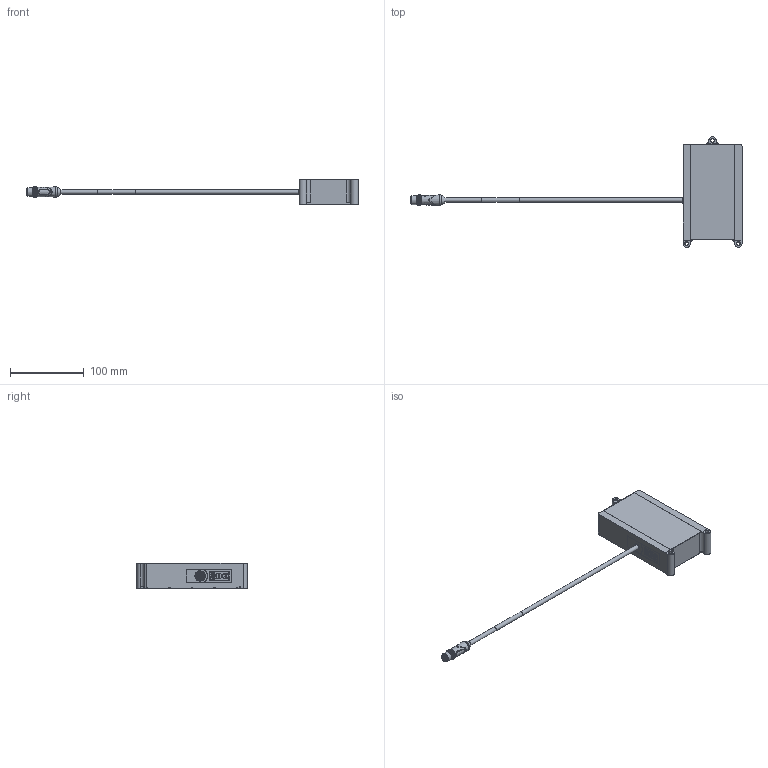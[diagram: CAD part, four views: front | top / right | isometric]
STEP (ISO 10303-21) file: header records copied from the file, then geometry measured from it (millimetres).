
FILE_DESCRIPTION (( 'STEP AP214' ), '1' );
FILE_NAME ('ILD1910.STEP', '2023-09-22T06:33:30', ( '' ), ( '' ), 'SwSTEP 2.0', 'SolidWorks 2020', '' );
FILE_SCHEMA (( 'AUTOMOTIVE_DESIGN' ));
Length unit declared in the file: millimetre
Products named in the file (1): ILD1910
Bounding box: 450.6 x 150 x 35 mm (x, y, z)
Volume: 379004.6 mm3; surface area: 49663.3 mm2
Topology: 1 solids, 9 shells, 2049 faces, 4648 edges, 2714 vertices
Faces by surface type: plane 899, cone 502, cylinder 414, bspline 186, torus 48
Full cylindrical faces by diameter (mm): 0.6 x17, 1.25 x4, 2.4 x2, 2.5 x3, 4.5 x15, 4.8 x12, 5.8 x2, 6 x1, 7.5 x2, 8 x2, 8.35 x1, 8.4 x1, 9.4 x1, 9.5 x1, 10.5 x1, 10.7 x1, 12 x2, 12.2 x1
Entity records: 87895 total; most frequent: CARTESIAN_POINT 24831, ORIENTED_EDGE 8846, DIRECTION 7390, EDGE_CURVE 4423, AXIS2_PLACEMENT_3D 2863, VERTEX_POINT 2658, EDGE_LOOP 2325, FACE_OUTER_BOUND 2159
